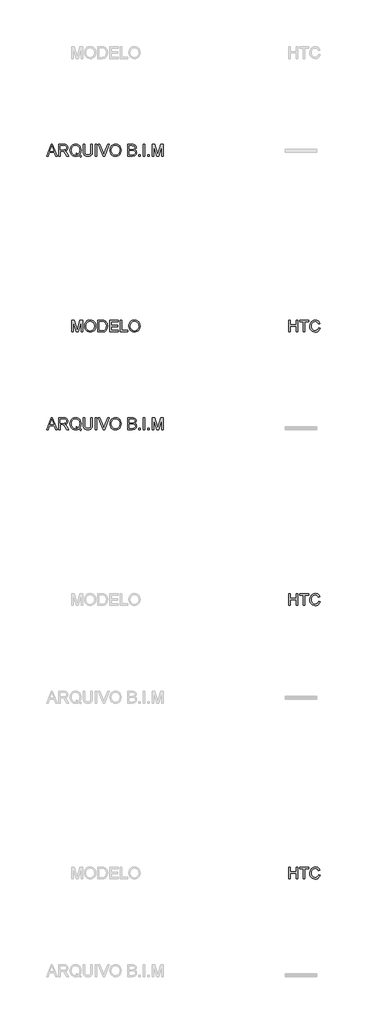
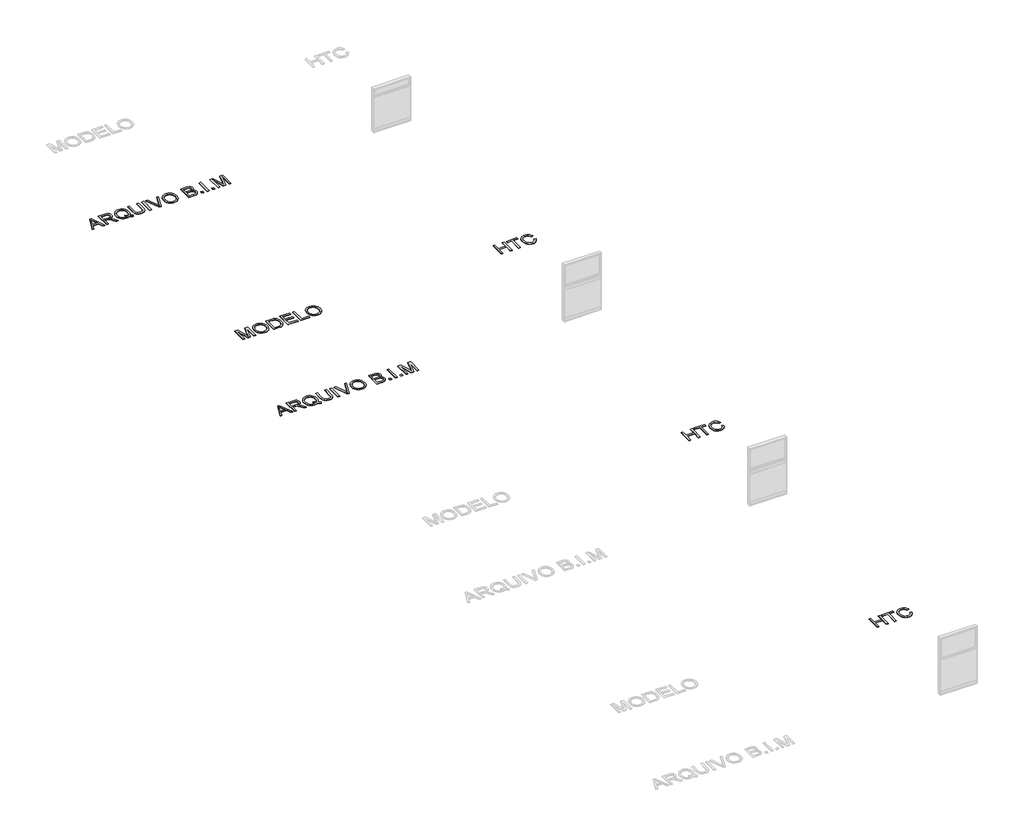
# One storey, part 2 of 8: 6 proxies.
"""IFC4 building model written with IfcOpenShell, lengths in millimetres."""

from ifc_helpers import new_model, si_unit, origin, origin_with_axes, place, context, project, spatial, polyline, outline, extrude, element, save

model = new_model("IFC4")

# Units and contexts
model_context = context("Model", 3, world=origin())
ifc_project = project(units=[si_unit("LENGTHUNIT", "METRE", prefix="MILLI")], contexts=[model_context])

# Site, building, storey
site = spatial("IfcSite", under=ifc_project)
building = spatial("IfcBuilding", under=site)
storey = spatial("IfcBuildingStorey", under=building, Name="Marelli - Linha HABITAT - Planta Baixa", Elevation=0.0)

# Proxies
placement = place(None, origin())
element("IfcBuildingElementProxy", 1, Name="300mm Arial", ObjectType="300mm Arial", at=placement, inside=storey, context=model_context, shape_type="SweptSolid", body=[
    extrude(outline(polyline([(29390.580402, -66280.5663201), (29510.8778144, -65979.1973896), (29542.9571244, -65979.1973896), (29663.2545368, -66280.5663201), (29623.449705, -66280.5663201), (29588.9423738, -66186.3885293), (29464.8189886, -66186.3885293), (29430.3852339, -66280.5663201), (29390.580402, -66280.5663201)]), holes=[polyline([(29478.6513517, -66148.717413), (29575.1835872, -66148.717413), (29548.0338959, -66074.6259792), (29526.9174694, -66016.8685059), (29508.1554877, -66068.1512561), (29478.6513517, -66148.717413)])]), origin_with_axes(), (0.0, 0.0, 1.0), 10.0),
    extrude(outline(polyline([(29703.5008271, -66280.5663201), (29703.5008271, -65979.1973896), (29833.3631714, -65979.1973896), (29868.2659757, -65981.2299376), (29893.6590304, -65987.3275817), (29912.2186771, -65998.5847708), (29926.6212572, -66016.0959537), (29935.8642923, -66037.8101885), (29938.945304, -66061.6765329), (29933.8409413, -66091.3646099), (29918.5278533, -66115.9759154), (29906.9280741, -66126.0052983), (29892.5461874, -66134.0205273), (29855.4360911, -66144.0085235), (29876.8468232, -66160.1217548), (29907.3810288, -66198.8965171), (29957.6337094, -66280.5663201), (29913.855752, -66280.5663201), (29874.6395313, -66218.0999573), (29846.3126176, -66176.750021), (29826.4102017, -66157.2154871), (29808.4943485, -66150.0417882), (29786.642158, -66148.717413), (29741.1719434, -66148.717413), (29741.1719434, -66280.5663201), (29703.5008271, -66280.5663201)]), holes=[polyline([(29741.1719434, -66111.0462967), (29825.4904967, -66111.0462967), (29849.706329, -66109.7127245), (29868.4959019, -66105.7120078), (29882.6409647, -66098.7774322), (29892.9232664, -66088.6422832), (29899.1864574, -66076.3826157), (29901.2741877, -66063.0744845), (29897.2918651, -66044.6987789), (29885.3448973, -66029.8915286), (29864.7894908, -66020.1242616), (29834.9818522, -66016.8685059), (29741.1719434, -66016.8685059), (29741.1719434, -66111.0462967)])]), origin_with_axes(), (0.0, 0.0, 1.0), 10.0),
    extrude(outline(polyline([(30231.2643374, -66244.4403081), (30255.5997314, -66263.036743), (30277.9853508, -66275.8574305), (30267.8318077, -66303.4485802), (30236.7641732, -66289.0460001), (30205.8069033, -66268.205485), (30170.9500843, -66281.0077785), (30132.5983863, -66285.2752096), (30094.0627473, -66280.3547879), (30059.2427164, -66265.5935229), (30030.0788713, -66241.9203165), (30008.5117893, -66210.2640708), (29995.185264, -66172.3630282), (29990.7430889, -66129.9554312), (29995.176067, -66087.511046), (30008.4750011, -66049.0581805), (30029.9593096, -66016.9512794), (30058.9484108, -65993.5447874), (30093.639683, -65979.2525719), (30132.2305043, -65974.4885001), (30171.1248282, -65979.3629365), (30205.9908443, -65993.9862458), (30234.9339603, -66017.3835407), (30256.0595839, -66048.5799339), (30268.9722419, -66085.9199564), (30273.2764612, -66127.7481393), (30270.6644991, -66162.5313819), (30262.8286126, -66193.5990164), (30249.7136194, -66220.9142546), (30231.2643374, -66244.4403081)]), holes=[polyline([(30142.9726585, -66194.3347804), (30174.6472983, -66206.3093393), (30200.215097, -66222.9559996), (30215.6983305, -66205.4816049), (30226.7577829, -66184.1076609), (30233.3934544, -66158.8341679), (30235.6053449, -66129.6611256), (30232.478348, -66096.5057608), (30223.0973571, -66067.8201623), (30207.6922985, -66044.3308969), (30186.4930986, -66026.7645316), (30160.934497, -66015.8108452), (30132.4512335, -66012.1596164), (30110.966925, -66014.0059242), (30091.3956028, -66019.5448474), (30073.7372671, -66028.7763863), (30057.9919177, -66041.7005406), (30045.0516685, -66058.2897193), (30035.8086334, -66078.5163313), (30030.2628123, -66102.3803764), (30028.4142053, -66129.8818548), (30030.2421189, -66156.6659634), (30035.7258599, -66180.1437324), (30044.8654282, -66200.3151621), (30057.6608239, -66217.1802523), (30073.2981079, -66230.4906827), (30090.9633415, -66239.9981331), (30110.6565245, -66245.7026032), (30132.3776571, -66247.6040933), (30153.2917485, -66245.6727128), (30172.918253, -66239.8785714), (30153.6228423, -66229.853787), (30133.2605739, -66223.1767288), (30142.9726585, -66194.3347804)])]), origin_with_axes(), (0.0, 0.0, 1.0), 10.0),
    extrude(outline(polyline([(30527.5564963, -65979.1973896), (30565.2276126, -65979.1973896), (30565.2276126, -66153.0584205), (30562.6708327, -66193.7737604), (30555.0004931, -66225.1265034), (30540.6714894, -66249.3147446), (30518.1387172, -66268.5365788), (30487.3469942, -66281.0905519), (30448.2411381, -66285.2752096), (30409.9906077, -66281.6331779), (30379.4104168, -66270.7070826), (30356.4913685, -66252.8740029), (30341.2242657, -66228.5110178), (30332.6434182, -66195.8338995), (30329.7831357, -66153.0584205), (30329.7831357, -65979.1973896), (30367.454252, -65979.1973896), (30367.454252, -66151.7340454), (30369.3120561, -66185.588386), (30374.8854683, -66209.1604248), (30384.9838291, -66225.4851883), (30400.4164788, -66237.597703), (30420.5396239, -66245.1024957), (30444.709471, -66247.6040933), (30483.0243808, -66242.6560805), (30497.3671801, -66236.4710644), (30508.500209, -66227.812042), (30516.8373347, -66215.6351479), (30522.7924245, -66198.8965171), (30527.5564963, -66151.7340454), (30527.5564963, -65979.1973896)])), origin_with_axes(), (0.0, 0.0, 1.0), 10.0),
    extrude(outline(polyline([(30635.8609557, -66280.5663201), (30635.8609557, -65979.1973896), (30673.532072, -65979.1973896), (30673.532072, -66280.5663201), (30635.8609557, -66280.5663201)])), origin_with_axes(), (0.0, 0.0, 1.0), 10.0),
    extrude(outline(polyline([(30837.9017474, -66280.5663201), (30717.972217, -65979.1973896), (30758.2920837, -65979.1973896), (30838.563935, -66196.3213432), (30854.8243192, -66245.2496485), (30870.8639742, -66196.3213432), (30951.3565547, -65979.1973896), (30991.6764214, -65979.1973896), (30876.8236625, -66280.5663201), (30837.9017474, -66280.5663201)])), origin_with_axes(), (0.0, 0.0, 1.0), 10.0),
    extrude(outline(polyline([(31012.5721187, -66133.8549804), (31015.0829134, -66098.5061192), (31022.6152972, -66067.213157), (31035.1692703, -66039.9760937), (31052.7448326, -66016.7949295), (31074.288922, -65998.2858666), (31098.7484761, -65985.0651074), (31126.1234951, -65977.1326519), (31156.4139789, -65974.4885001), (31195.9428992, -65979.454907), (31231.3883295, -65994.3541278), (31260.8188891, -66018.1376988), (31282.3031976, -66049.7571563), (31295.4365848, -66087.68579), (31299.8143806, -66130.3968896), (31295.2066586, -66173.6782064), (31281.3834926, -66212.140269), (31259.1082378, -66243.8149088), (31229.1442493, -66266.733957), (31194.0023217, -66280.6398965), (31156.1932497, -66285.2752096), (31116.057324, -66280.1524528), (31080.4095587, -66264.7841825), (31051.0525754, -66240.5591531), (31029.7889961, -66208.8661192), (31016.8763381, -66172.3998164), (31012.5721187, -66133.8549804)]), holes=[polyline([(31050.2432351, -66134.2228624), (31052.126331, -66159.1974513), (31057.7756189, -66181.3669401), (31067.1910987, -66200.7313286), (31080.3727705, -66217.2906169), (31096.3963306, -66230.5527628), (31114.3374757, -66240.0257242), (31134.1962056, -66245.709501), (31155.9725205, -66247.6040933), (31178.1213158, -66245.6911069), (31198.2145706, -66239.9521478), (31216.2522846, -66230.3872159), (31232.2344581, -66216.9963113), (31245.3195608, -66200.0875351), (31254.6660627, -66179.9689885), (31260.2739639, -66156.6406715), (31262.1432643, -66130.102584), (31258.9426909, -66096.7540812), (31249.3409708, -66067.9305269), (31233.5864244, -66044.358488), (31211.9273719, -66026.7645316), (31185.7985532, -66015.8108452), (31156.6347081, -66012.1596164), (31135.6148506, -66013.9185522), (31116.1125063, -66019.1953595), (31098.1276753, -66027.9900385), (31081.6603574, -66040.302589), (31067.9153664, -66056.7262208), (31058.0975157, -66077.8541437), (31052.2068052, -66103.6863575), (31050.2432351, -66134.2228624)])]), origin_with_axes(), (0.0, 0.0, 1.0), 10.0),
    extrude(outline(polyline([(31469.334404, -66280.5663201), (31469.334404, -65979.1973896), (31584.3343157, -65979.1973896), (31615.9629702, -65981.4138786), (31640.6570491, -65988.0633457), (31659.5845778, -65999.3113377), (31673.9135815, -66015.3234015), (31682.9358874, -66034.1589597), (31685.9433227, -66053.8774346), (31683.414134, -66072.0232141), (31675.8265679, -66089.0837416), (31663.125442, -66104.0105535), (31645.2555741, -66115.7551862), (31666.6019268, -66126.9020107), (31682.3748674, -66143.8613707), (31692.1145432, -66165.5112261), (31695.3611018, -66190.7295368), (31693.1446128, -66211.7447958), (31686.4951457, -66231.2333445), (31676.5715289, -66247.8064284), (31664.5325906, -66260.0752929), (31649.7897196, -66268.9596431), (31631.7543048, -66275.3791839), (31583.4513989, -66280.5663201), (31469.334404, -66280.5663201)]), holes=[polyline([(31507.0055203, -66101.6285176), (31575.7994534, -66101.6285176), (31615.9721672, -66098.3911561), (31630.0344565, -66092.8085468), (31640.1420143, -66084.4484284), (31646.2396584, -66073.4395597), (31648.2722064, -66059.9106994), (31646.3776141, -66046.7773121), (31640.6938373, -66035.3361821), (31631.4783933, -66026.4058467), (31618.9887996, -66020.8048433), (31570.575529, -66016.8685059), (31507.0055203, -66016.8685059), (31507.0055203, -66101.6285176)]), polyline([(31507.0055203, -66242.8952038), (31584.2607393, -66242.8952038), (31612.2197709, -66241.4236758), (31635.8745832, -66233.2199073), (31651.5463562, -66216.4812765), (31656.1540782, -66204.6538704), (31657.6899855, -66191.0974188), (31655.8873637, -66175.3520694), (31650.4794984, -66161.814012), (31641.0341282, -66151.2282076), (31627.1189917, -66144.3396173), (31607.4097138, -66140.5596298), (31580.5819193, -66139.2996339), (31507.0055203, -66139.2996339), (31507.0055203, -66242.8952038)])]), origin_with_axes(), (0.0, 0.0, 1.0), 10.0),
    extrude(outline(polyline([(31751.8677763, -66280.5663201), (31751.8677763, -66242.8952038), (31789.5388926, -66242.8952038), (31789.5388926, -66280.5663201), (31751.8677763, -66280.5663201)])), origin_with_axes(), (0.0, 0.0, 1.0), 10.0),
    extrude(outline(polyline([(31869.5900147, -66280.5663201), (31869.5900147, -65979.1973896), (31907.261131, -65979.1973896), (31907.261131, -66280.5663201), (31869.5900147, -66280.5663201)])), origin_with_axes(), (0.0, 0.0, 1.0), 10.0),
    extrude(outline(polyline([(31987.3122532, -66280.5663201), (31987.3122532, -66242.8952038), (32024.9833695, -66242.8952038), (32024.9833695, -66280.5663201), (31987.3122532, -66280.5663201)])), origin_with_axes(), (0.0, 0.0, 1.0), 10.0),
    extrude(outline(polyline([(32100.3256021, -66280.5663201), (32100.3256021, -65979.1973896), (32165.1464096, -65979.1973896), (32226.803432, -66191.6124536), (32239.2378435, -66235.9790223), (32252.7023245, -66187.9336337), (32313.3292773, -65979.1973896), (32378.1500848, -65979.1973896), (32378.1500848, -66280.5663201), (32340.4789685, -66280.5663201), (32340.4789685, -66016.8685059), (32264.7688539, -66280.5663201), (32213.706833, -66280.5663201), (32137.9967184, -66016.8685059), (32137.9967184, -66280.5663201), (32100.3256021, -66280.5663201)])), origin_with_axes(), (0.0, 0.0, 1.0), 10.0),
])
element("IfcBuildingElementProxy", 2, Name="300mm Arial", ObjectType="300mm Arial", at=placement, inside=storey, context=model_context, shape_type="SweptSolid", body=[
    extrude(outline(polyline([(29390.580402, -73280.5663201), (29510.8778144, -72979.1973896), (29542.9571244, -72979.1973896), (29663.2545368, -73280.5663201), (29623.449705, -73280.5663201), (29588.9423738, -73186.3885293), (29464.8189886, -73186.3885293), (29430.3852339, -73280.5663201), (29390.580402, -73280.5663201)]), holes=[polyline([(29478.6513517, -73148.717413), (29575.1835872, -73148.717413), (29548.0338959, -73074.6259792), (29526.9174694, -73016.8685059), (29508.1554877, -73068.1512561), (29478.6513517, -73148.717413)])]), origin_with_axes(), (0.0, 0.0, 1.0), 10.0),
    extrude(outline(polyline([(29703.5008271, -73280.5663201), (29703.5008271, -72979.1973896), (29833.3631714, -72979.1973896), (29868.2659757, -72981.2299376), (29893.6590304, -72987.3275817), (29912.2186771, -72998.5847708), (29926.6212572, -73016.0959537), (29935.8642923, -73037.8101885), (29938.945304, -73061.6765329), (29933.8409413, -73091.3646099), (29918.5278533, -73115.9759154), (29906.9280741, -73126.0052983), (29892.5461874, -73134.0205273), (29855.4360911, -73144.0085235), (29876.8468232, -73160.1217548), (29907.3810288, -73198.8965171), (29957.6337094, -73280.5663201), (29913.855752, -73280.5663201), (29874.6395313, -73218.0999573), (29846.3126176, -73176.750021), (29826.4102017, -73157.2154871), (29808.4943485, -73150.0417882), (29786.642158, -73148.717413), (29741.1719434, -73148.717413), (29741.1719434, -73280.5663201), (29703.5008271, -73280.5663201)]), holes=[polyline([(29741.1719434, -73111.0462967), (29825.4904967, -73111.0462967), (29849.706329, -73109.7127245), (29868.4959019, -73105.7120078), (29882.6409647, -73098.7774322), (29892.9232664, -73088.6422832), (29899.1864574, -73076.3826157), (29901.2741877, -73063.0744845), (29897.2918651, -73044.6987789), (29885.3448973, -73029.8915286), (29864.7894908, -73020.1242616), (29834.9818522, -73016.8685059), (29741.1719434, -73016.8685059), (29741.1719434, -73111.0462967)])]), origin_with_axes(), (0.0, 0.0, 1.0), 10.0),
    extrude(outline(polyline([(30231.2643374, -73244.4403081), (30255.5997314, -73263.036743), (30277.9853508, -73275.8574305), (30267.8318077, -73303.4485802), (30236.7641732, -73289.0460001), (30205.8069033, -73268.205485), (30170.9500843, -73281.0077785), (30132.5983863, -73285.2752096), (30094.0627473, -73280.3547879), (30059.2427164, -73265.5935229), (30030.0788713, -73241.9203165), (30008.5117893, -73210.2640708), (29995.185264, -73172.3630282), (29990.7430889, -73129.9554312), (29995.176067, -73087.511046), (30008.4750011, -73049.0581805), (30029.9593096, -73016.9512794), (30058.9484108, -72993.5447874), (30093.639683, -72979.2525719), (30132.2305043, -72974.4885001), (30171.1248282, -72979.3629365), (30205.9908443, -72993.9862458), (30234.9339603, -73017.3835407), (30256.0595839, -73048.5799339), (30268.9722419, -73085.9199564), (30273.2764612, -73127.7481393), (30270.6644991, -73162.5313819), (30262.8286126, -73193.5990164), (30249.7136194, -73220.9142546), (30231.2643374, -73244.4403081)]), holes=[polyline([(30142.9726585, -73194.3347804), (30174.6472983, -73206.3093393), (30200.215097, -73222.9559996), (30215.6983305, -73205.4816049), (30226.7577829, -73184.1076609), (30233.3934544, -73158.8341679), (30235.6053449, -73129.6611256), (30232.478348, -73096.5057608), (30223.0973571, -73067.8201623), (30207.6922985, -73044.3308969), (30186.4930986, -73026.7645316), (30160.934497, -73015.8108452), (30132.4512335, -73012.1596164), (30110.966925, -73014.0059242), (30091.3956028, -73019.5448474), (30073.7372671, -73028.7763863), (30057.9919177, -73041.7005406), (30045.0516685, -73058.2897193), (30035.8086334, -73078.5163313), (30030.2628123, -73102.3803764), (30028.4142053, -73129.8818548), (30030.2421189, -73156.6659634), (30035.7258599, -73180.1437324), (30044.8654282, -73200.3151621), (30057.6608239, -73217.1802523), (30073.2981079, -73230.4906827), (30090.9633415, -73239.9981331), (30110.6565245, -73245.7026032), (30132.3776571, -73247.6040933), (30153.2917485, -73245.6727128), (30172.918253, -73239.8785714), (30153.6228423, -73229.853787), (30133.2605739, -73223.1767288), (30142.9726585, -73194.3347804)])]), origin_with_axes(), (0.0, 0.0, 1.0), 10.0),
    extrude(outline(polyline([(30527.5564963, -72979.1973896), (30565.2276126, -72979.1973896), (30565.2276126, -73153.0584205), (30562.6708327, -73193.7737604), (30555.0004931, -73225.1265034), (30540.6714894, -73249.3147446), (30518.1387172, -73268.5365788), (30487.3469942, -73281.0905519), (30448.2411381, -73285.2752096), (30409.9906077, -73281.6331779), (30379.4104168, -73270.7070826), (30356.4913685, -73252.8740029), (30341.2242657, -73228.5110178), (30332.6434182, -73195.8338995), (30329.7831357, -73153.0584205), (30329.7831357, -72979.1973896), (30367.454252, -72979.1973896), (30367.454252, -73151.7340454), (30369.3120561, -73185.588386), (30374.8854683, -73209.1604248), (30384.9838291, -73225.4851883), (30400.4164788, -73237.597703), (30420.5396239, -73245.1024957), (30444.709471, -73247.6040933), (30483.0243808, -73242.6560805), (30497.3671801, -73236.4710644), (30508.500209, -73227.812042), (30516.8373347, -73215.6351479), (30522.7924245, -73198.8965171), (30527.5564963, -73151.7340454), (30527.5564963, -72979.1973896)])), origin_with_axes(), (0.0, 0.0, 1.0), 10.0),
    extrude(outline(polyline([(30635.8609557, -73280.5663201), (30635.8609557, -72979.1973896), (30673.532072, -72979.1973896), (30673.532072, -73280.5663201), (30635.8609557, -73280.5663201)])), origin_with_axes(), (0.0, 0.0, 1.0), 10.0),
    extrude(outline(polyline([(30837.9017474, -73280.5663201), (30717.972217, -72979.1973896), (30758.2920837, -72979.1973896), (30838.563935, -73196.3213432), (30854.8243192, -73245.2496485), (30870.8639742, -73196.3213432), (30951.3565547, -72979.1973896), (30991.6764214, -72979.1973896), (30876.8236625, -73280.5663201), (30837.9017474, -73280.5663201)])), origin_with_axes(), (0.0, 0.0, 1.0), 10.0),
    extrude(outline(polyline([(31012.5721187, -73133.8549804), (31015.0829134, -73098.5061192), (31022.6152972, -73067.213157), (31035.1692703, -73039.9760937), (31052.7448326, -73016.7949295), (31074.288922, -72998.2858666), (31098.7484761, -72985.0651074), (31126.1234951, -72977.1326519), (31156.4139789, -72974.4885001), (31195.9428992, -72979.454907), (31231.3883295, -72994.3541278), (31260.8188891, -73018.1376988), (31282.3031976, -73049.7571563), (31295.4365848, -73087.68579), (31299.8143806, -73130.3968896), (31295.2066586, -73173.6782064), (31281.3834926, -73212.140269), (31259.1082378, -73243.8149088), (31229.1442493, -73266.733957), (31194.0023217, -73280.6398965), (31156.1932497, -73285.2752096), (31116.057324, -73280.1524528), (31080.4095587, -73264.7841825), (31051.0525754, -73240.5591531), (31029.7889961, -73208.8661192), (31016.8763381, -73172.3998164), (31012.5721187, -73133.8549804)]), holes=[polyline([(31050.2432351, -73134.2228624), (31052.126331, -73159.1974513), (31057.7756189, -73181.3669401), (31067.1910987, -73200.7313286), (31080.3727705, -73217.2906169), (31096.3963306, -73230.5527628), (31114.3374757, -73240.0257242), (31134.1962056, -73245.709501), (31155.9725205, -73247.6040933), (31178.1213158, -73245.6911069), (31198.2145706, -73239.9521478), (31216.2522846, -73230.3872159), (31232.2344581, -73216.9963113), (31245.3195608, -73200.0875351), (31254.6660627, -73179.9689885), (31260.2739639, -73156.6406715), (31262.1432643, -73130.102584), (31258.9426909, -73096.7540812), (31249.3409708, -73067.9305269), (31233.5864244, -73044.358488), (31211.9273719, -73026.7645316), (31185.7985532, -73015.8108452), (31156.6347081, -73012.1596164), (31135.6148506, -73013.9185522), (31116.1125063, -73019.1953595), (31098.1276753, -73027.9900385), (31081.6603574, -73040.302589), (31067.9153664, -73056.7262208), (31058.0975157, -73077.8541437), (31052.2068052, -73103.6863575), (31050.2432351, -73134.2228624)])]), origin_with_axes(), (0.0, 0.0, 1.0), 10.0),
    extrude(outline(polyline([(31469.334404, -73280.5663201), (31469.334404, -72979.1973896), (31584.3343157, -72979.1973896), (31615.9629702, -72981.4138786), (31640.6570491, -72988.0633457), (31659.5845778, -72999.3113377), (31673.9135815, -73015.3234015), (31682.9358874, -73034.1589597), (31685.9433227, -73053.8774346), (31683.414134, -73072.0232141), (31675.8265679, -73089.0837416), (31663.125442, -73104.0105535), (31645.2555741, -73115.7551862), (31666.6019268, -73126.9020107), (31682.3748674, -73143.8613707), (31692.1145432, -73165.5112261), (31695.3611018, -73190.7295368), (31693.1446128, -73211.7447958), (31686.4951457, -73231.2333445), (31676.5715289, -73247.8064284), (31664.5325906, -73260.0752929), (31649.7897196, -73268.9596431), (31631.7543048, -73275.3791839), (31583.4513989, -73280.5663201), (31469.334404, -73280.5663201)]), holes=[polyline([(31507.0055203, -73101.6285176), (31575.7994534, -73101.6285176), (31615.9721672, -73098.3911561), (31630.0344565, -73092.8085468), (31640.1420143, -73084.4484284), (31646.2396584, -73073.4395597), (31648.2722064, -73059.9106994), (31646.3776141, -73046.7773121), (31640.6938373, -73035.3361821), (31631.4783933, -73026.4058467), (31618.9887996, -73020.8048433), (31570.575529, -73016.8685059), (31507.0055203, -73016.8685059), (31507.0055203, -73101.6285176)]), polyline([(31507.0055203, -73242.8952038), (31584.2607393, -73242.8952038), (31612.2197709, -73241.4236758), (31635.8745832, -73233.2199073), (31651.5463562, -73216.4812765), (31656.1540782, -73204.6538704), (31657.6899855, -73191.0974188), (31655.8873637, -73175.3520694), (31650.4794984, -73161.814012), (31641.0341282, -73151.2282076), (31627.1189917, -73144.3396173), (31607.4097138, -73140.5596298), (31580.5819193, -73139.2996339), (31507.0055203, -73139.2996339), (31507.0055203, -73242.8952038)])]), origin_with_axes(), (0.0, 0.0, 1.0), 10.0),
    extrude(outline(polyline([(31751.8677763, -73280.5663201), (31751.8677763, -73242.8952038), (31789.5388926, -73242.8952038), (31789.5388926, -73280.5663201), (31751.8677763, -73280.5663201)])), origin_with_axes(), (0.0, 0.0, 1.0), 10.0),
    extrude(outline(polyline([(31869.5900147, -73280.5663201), (31869.5900147, -72979.1973896), (31907.261131, -72979.1973896), (31907.261131, -73280.5663201), (31869.5900147, -73280.5663201)])), origin_with_axes(), (0.0, 0.0, 1.0), 10.0),
    extrude(outline(polyline([(31987.3122532, -73280.5663201), (31987.3122532, -73242.8952038), (32024.9833695, -73242.8952038), (32024.9833695, -73280.5663201), (31987.3122532, -73280.5663201)])), origin_with_axes(), (0.0, 0.0, 1.0), 10.0),
    extrude(outline(polyline([(32100.3256021, -73280.5663201), (32100.3256021, -72979.1973896), (32165.1464096, -72979.1973896), (32226.803432, -73191.6124536), (32239.2378435, -73235.9790223), (32252.7023245, -73187.9336337), (32313.3292773, -72979.1973896), (32378.1500848, -72979.1973896), (32378.1500848, -73280.5663201), (32340.4789685, -73280.5663201), (32340.4789685, -73016.8685059), (32264.7688539, -73280.5663201), (32213.706833, -73280.5663201), (32137.9967184, -73016.8685059), (32137.9967184, -73280.5663201), (32100.3256021, -73280.5663201)])), origin_with_axes(), (0.0, 0.0, 1.0), 10.0),
])
element("IfcBuildingElementProxy", 3, Name="300mm Arial", ObjectType="300mm Arial", at=placement, inside=storey, context=model_context, shape_type="SweptSolid", body=[
    extrude(outline(polyline([(35588.7720603, -70780.5663201), (35588.7720603, -70479.1973896), (35626.4431766, -70479.1973896), (35626.4431766, -70601.6285176), (35786.5454209, -70601.6285176), (35786.5454209, -70479.1973896), (35824.2165372, -70479.1973896), (35824.2165372, -70780.5663201), (35786.5454209, -70780.5663201), (35786.5454209, -70639.2996339), (35626.4431766, -70639.2996339), (35626.4431766, -70780.5663201), (35588.7720603, -70780.5663201)])), origin_with_axes(), (0.0, 0.0, 1.0), 10.0),
    extrude(outline(polyline([(35965.4832234, -70780.5663201), (35965.4832234, -70516.8685059), (35866.5965431, -70516.8685059), (35866.5965431, -70479.1973896), (36102.04102, -70479.1973896), (36102.04102, -70516.8685059), (36003.1543397, -70516.8685059), (36003.1543397, -70780.5663201), (35965.4832234, -70780.5663201)])), origin_with_axes(), (0.0, 0.0, 1.0), 10.0),
    extrude(outline(polyline([(36356.321055, -70673.4390831), (36393.9921713, -70683.1511677), (36386.5379624, -70706.5783531), (36376.6097471, -70727.0486868), (36364.2075253, -70744.5621691), (36349.3312971, -70759.1187997), (36332.3167549, -70770.5622291), (36313.4995908, -70778.7361071), (36292.879805, -70783.640434), (36270.4573974, -70785.2752096), (36226.7622134, -70780.3271968), (36192.0617442, -70765.4831583), (36165.4638759, -70741.2581289), (36146.0764948, -70708.1671434), (36134.2398916, -70669.2636224), (36130.2943572, -70627.6009865), (36134.7549264, -70583.6574821), (36148.136634, -70545.7104543), (36169.7405041, -70514.9647166), (36198.8675611, -70492.6250824), (36233.4116805, -70479.0226457), (36271.2667378, -70474.4885001), (36312.5706888, -70480.3562179), (36330.539425, -70487.6908652), (36346.719335, -70497.9593714), (36360.8437043, -70510.8904235), (36372.6458186, -70526.2127086), (36389.2832818, -70564.0309777), (36351.6121655, -70573.0072984), (36338.5523547, -70545.5357104), (36320.7100779, -70526.6909552), (36297.864606, -70515.7924511), (36269.7952098, -70512.1596164), (36237.4399883, -70516.1879242), (36210.8605141, -70528.2728478), (36190.6913838, -70547.1451941), (36177.5671936, -70571.5357704), (36170.3659035, -70599.1085259), (36167.9654735, -70627.5274101), (36170.8073619, -70662.3290468), (36179.3330272, -70692.421794), (36193.864366, -70716.6560205), (36214.7232751, -70733.8820949), (36239.7300537, -70744.1735937), (36266.705001, -70747.6040933), (36298.1497146, -70742.931992), (36324.3521097, -70728.9156879), (36344.134964, -70705.702334), (36356.321055, -70673.4390831)])), origin_with_axes(), (0.0, 0.0, 1.0), 10.0),
])
element("IfcBuildingElementProxy", 4, Name="300mm Arial", ObjectType="300mm Arial", at=placement, inside=storey, context=model_context, shape_type="SweptSolid", body=[
    extrude(outline(polyline([(30033.1230948, -70780.5663201), (30033.1230948, -70479.1973896), (30097.9439023, -70479.1973896), (30159.6009247, -70691.6124536), (30172.0353362, -70735.9790223), (30185.4998172, -70687.9336337), (30246.12677, -70479.1973896), (30310.9475775, -70479.1973896), (30310.9475775, -70780.5663201), (30273.2764612, -70780.5663201), (30273.2764612, -70516.8685059), (30197.5663466, -70780.5663201), (30146.5043257, -70780.5663201), (30070.7942111, -70516.8685059), (30070.7942111, -70780.5663201), (30033.1230948, -70780.5663201)])), origin_with_axes(), (0.0, 0.0, 1.0), 10.0),
    extrude(outline(polyline([(30362.7453625, -70633.8549804), (30365.2561571, -70598.5061192), (30372.7885409, -70567.213157), (30385.342514, -70539.9760937), (30402.9180763, -70516.7949295), (30424.4621657, -70498.2858666), (30448.9217198, -70485.0651074), (30476.2967388, -70477.1326519), (30506.5872226, -70474.4885001), (30546.116143, -70479.454907), (30581.5615732, -70494.3541278), (30610.9921328, -70518.1376988), (30632.4764413, -70549.7571563), (30645.6098286, -70587.68579), (30649.9876243, -70630.3968896), (30645.3799023, -70673.6782064), (30631.5567363, -70712.140269), (30609.2814815, -70743.8149088), (30579.317493, -70766.733957), (30544.1755654, -70780.6398965), (30506.3664934, -70785.2752096), (30466.2305677, -70780.1524528), (30430.5828024, -70764.7841825), (30401.2258192, -70740.5591531), (30379.9622398, -70708.8661192), (30367.0495818, -70672.3998164), (30362.7453625, -70633.8549804)]), holes=[polyline([(30400.4164788, -70634.2228624), (30402.2995747, -70659.1974513), (30407.9488626, -70681.3669401), (30417.3643424, -70700.7313286), (30430.5460142, -70717.2906169), (30446.5695743, -70730.5527628), (30464.5107194, -70740.0257242), (30484.3694493, -70745.709501), (30506.1457642, -70747.6040933), (30528.2945596, -70745.6911069), (30548.3878143, -70739.9521478), (30566.4255284, -70730.3872159), (30582.4077018, -70716.9963113), (30595.4928045, -70700.0875351), (30604.8393064, -70679.9689885), (30610.4472076, -70656.6406715), (30612.316508, -70630.102584), (30609.1159346, -70596.7540812), (30599.5142146, -70567.9305269), (30583.7596681, -70544.358488), (30562.1006157, -70526.7645316), (30535.9717969, -70515.8108452), (30506.8079518, -70512.1596164), (30485.7880943, -70513.9185522), (30466.28575, -70519.1953595), (30448.300919, -70527.9900385), (30431.8336012, -70540.302589), (30418.0886101, -70556.7262208), (30408.2707594, -70577.8541437), (30402.3800489, -70603.6863575), (30400.4164788, -70634.2228624)])]), origin_with_axes(), (0.0, 0.0, 1.0), 10.0),
    extrude(outline(polyline([(30701.7854092, -70780.5663201), (30701.7854092, -70479.1973896), (30805.7488611, -70479.1973896), (30859.5332088, -70483.5383972), (30883.555903, -70491.9077126), (30903.826201, -70505.0962821), (30924.666716, -70528.0521186), (30939.5107545, -70556.5997614), (30948.3951047, -70590.1873876), (30951.3565547, -70628.2631741), (30949.3515979, -70660.6091985), (30943.3367273, -70689.0740679), (30934.1764656, -70713.3082943), (30922.7353355, -70732.9623899), (30909.5651601, -70748.477813), (30895.2177623, -70760.2960221), (30878.745846, -70769.0608107), (30859.202115, -70775.4159721), (30810.7520562, -70780.5663201), (30701.7854092, -70780.5663201)]), holes=[polyline([(30739.4565255, -70742.8952038), (30806.1167431, -70742.8952038), (30833.6894986, -70741.5340404), (30854.60359, -70737.4505502), (30870.3857276, -70730.8838566), (30882.5626217, -70722.0730828), (30895.6500236, -70705.7667134), (30905.48167, -70684.6594839), (30911.6344963, -70658.6594239), (30913.6854384, -70627.6745629), (30909.6663276, -70586.6189322), (30897.6089953, -70556.3054558), (30879.7943096, -70535.4833349), (30858.5031392, -70522.9017706), (30836.8348897, -70518.3768221), (30805.0866735, -70516.8685059), (30739.4565255, -70516.8685059), (30739.4565255, -70742.8952038)])]), origin_with_axes(), (0.0, 0.0, 1.0), 10.0),
    extrude(outline(polyline([(31003.1543397, -70780.5663201), (31003.1543397, -70479.1973896), (31219.7632584, -70479.1973896), (31219.7632584, -70516.8685059), (31040.825456, -70516.8685059), (31040.825456, -70606.3374072), (31210.3454794, -70606.3374072), (31210.3454794, -70644.0085235), (31040.825456, -70644.0085235), (31040.825456, -70742.8952038), (31224.472148, -70742.8952038), (31224.472148, -70780.5663201), (31003.1543397, -70780.5663201)])), origin_with_axes(), (0.0, 0.0, 1.0), 10.0),
    extrude(outline(polyline([(31280.9788224, -70780.5663201), (31280.9788224, -70479.1973896), (31318.6499387, -70479.1973896), (31318.6499387, -70742.8952038), (31469.334404, -70742.8952038), (31469.334404, -70780.5663201), (31280.9788224, -70780.5663201)])), origin_with_axes(), (0.0, 0.0, 1.0), 10.0),
    extrude(outline(polyline([(31497.5877412, -70633.8549804), (31500.0985358, -70598.5061192), (31507.6309197, -70567.213157), (31520.1848927, -70539.9760937), (31537.7604551, -70516.7949295), (31559.3045444, -70498.2858666), (31583.7640986, -70485.0651074), (31611.1391175, -70477.1326519), (31641.4296013, -70474.4885001), (31680.9585217, -70479.454907), (31716.4039519, -70494.3541278), (31745.8345115, -70518.1376988), (31767.3188201, -70549.7571563), (31780.4522073, -70587.68579), (31784.830003, -70630.3968896), (31780.222281, -70673.6782064), (31766.3991151, -70712.140269), (31744.1238603, -70743.8149088), (31714.1598717, -70766.733957), (31679.0179442, -70780.6398965), (31641.2088721, -70785.2752096), (31601.0729464, -70780.1524528), (31565.4251811, -70764.7841825), (31536.0681979, -70740.5591531), (31514.8046186, -70708.8661192), (31501.8919605, -70672.3998164), (31497.5877412, -70633.8549804)]), holes=[polyline([(31535.2588575, -70634.2228624), (31537.1419535, -70659.1974513), (31542.7912413, -70681.3669401), (31552.2067212, -70700.7313286), (31565.3883929, -70717.2906169), (31581.4119531, -70730.5527628), (31599.3530981, -70740.0257242), (31619.2118281, -70745.709501), (31640.9881429, -70747.6040933), (31663.1369383, -70745.6911069), (31683.230193, -70739.9521478), (31701.2679071, -70730.3872159), (31717.2500805, -70716.9963113), (31730.3351832, -70700.0875351), (31739.6816852, -70679.9689885), (31745.2895863, -70656.6406715), (31747.1588867, -70630.102584), (31743.9583134, -70596.7540812), (31734.3565933, -70567.9305269), (31718.6020468, -70544.358488), (31696.9429944, -70526.7645316), (31670.8141757, -70515.8108452), (31641.6503305, -70512.1596164), (31620.630473, -70513.9185522), (31601.1281287, -70519.1953595), (31583.1432977, -70527.9900385), (31566.6759799, -70540.302589), (31552.9309888, -70556.7262208), (31543.1131381, -70577.8541437), (31537.2224276, -70603.6863575), (31535.2588575, -70634.2228624)])]), origin_with_axes(), (0.0, 0.0, 1.0), 10.0),
])
element("IfcBuildingElementProxy", 5, Name="300mm Arial", ObjectType="300mm Arial", at=placement, inside=storey, context=model_context, shape_type="SweptSolid", body=[
    extrude(outline(polyline([(35588.7720603, -77780.5663201), (35588.7720603, -77479.1973896), (35626.4431766, -77479.1973896), (35626.4431766, -77601.6285176), (35786.5454209, -77601.6285176), (35786.5454209, -77479.1973896), (35824.2165372, -77479.1973896), (35824.2165372, -77780.5663201), (35786.5454209, -77780.5663201), (35786.5454209, -77639.2996339), (35626.4431766, -77639.2996339), (35626.4431766, -77780.5663201), (35588.7720603, -77780.5663201)])), origin_with_axes(), (0.0, 0.0, 1.0), 10.0),
    extrude(outline(polyline([(35965.4832234, -77780.5663201), (35965.4832234, -77516.8685059), (35866.5965431, -77516.8685059), (35866.5965431, -77479.1973896), (36102.04102, -77479.1973896), (36102.04102, -77516.8685059), (36003.1543397, -77516.8685059), (36003.1543397, -77780.5663201), (35965.4832234, -77780.5663201)])), origin_with_axes(), (0.0, 0.0, 1.0), 10.0),
    extrude(outline(polyline([(36356.321055, -77673.4390831), (36393.9921713, -77683.1511677), (36386.5379624, -77706.5783531), (36376.6097471, -77727.0486868), (36364.2075253, -77744.5621691), (36349.3312971, -77759.1187997), (36332.3167549, -77770.5622291), (36313.4995908, -77778.7361071), (36292.879805, -77783.640434), (36270.4573974, -77785.2752096), (36226.7622134, -77780.3271968), (36192.0617442, -77765.4831583), (36165.4638759, -77741.2581289), (36146.0764948, -77708.1671434), (36134.2398916, -77669.2636224), (36130.2943572, -77627.6009865), (36134.7549264, -77583.6574821), (36148.136634, -77545.7104543), (36169.7405041, -77514.9647166), (36198.8675611, -77492.6250824), (36233.4116805, -77479.0226457), (36271.2667378, -77474.4885001), (36312.5706888, -77480.3562179), (36330.539425, -77487.6908652), (36346.719335, -77497.9593714), (36360.8437043, -77510.8904235), (36372.6458186, -77526.2127086), (36389.2832818, -77564.0309777), (36351.6121655, -77573.0072984), (36338.5523547, -77545.5357104), (36320.7100779, -77526.6909552), (36297.864606, -77515.7924511), (36269.7952098, -77512.1596164), (36237.4399883, -77516.1879242), (36210.8605141, -77528.2728478), (36190.6913838, -77547.1451941), (36177.5671936, -77571.5357704), (36170.3659035, -77599.1085259), (36167.9654735, -77627.5274101), (36170.8073619, -77662.3290468), (36179.3330272, -77692.421794), (36193.864366, -77716.6560205), (36214.7232751, -77733.8820949), (36239.7300537, -77744.1735937), (36266.705001, -77747.6040933), (36298.1497146, -77742.931992), (36324.3521097, -77728.9156879), (36344.134964, -77705.702334), (36356.321055, -77673.4390831)])), origin_with_axes(), (0.0, 0.0, 1.0), 10.0),
])
element("IfcBuildingElementProxy", 6, Name="300mm Arial", ObjectType="300mm Arial", at=placement, inside=storey, context=model_context, shape_type="SweptSolid", body=[
    extrude(outline(polyline([(35588.7720603, -84780.5663201), (35588.7720603, -84479.1973896), (35626.4431766, -84479.1973896), (35626.4431766, -84601.6285176), (35786.5454209, -84601.6285176), (35786.5454209, -84479.1973896), (35824.2165372, -84479.1973896), (35824.2165372, -84780.5663201), (35786.5454209, -84780.5663201), (35786.5454209, -84639.2996339), (35626.4431766, -84639.2996339), (35626.4431766, -84780.5663201), (35588.7720603, -84780.5663201)])), origin_with_axes(), (0.0, 0.0, 1.0), 10.0),
    extrude(outline(polyline([(35965.4832234, -84780.5663201), (35965.4832234, -84516.8685059), (35866.5965431, -84516.8685059), (35866.5965431, -84479.1973896), (36102.04102, -84479.1973896), (36102.04102, -84516.8685059), (36003.1543397, -84516.8685059), (36003.1543397, -84780.5663201), (35965.4832234, -84780.5663201)])), origin_with_axes(), (0.0, 0.0, 1.0), 10.0),
    extrude(outline(polyline([(36356.321055, -84673.4390831), (36393.9921713, -84683.1511677), (36386.5379624, -84706.5783531), (36376.6097471, -84727.0486868), (36364.2075253, -84744.5621691), (36349.3312971, -84759.1187997), (36332.3167549, -84770.5622291), (36313.4995908, -84778.7361071), (36292.879805, -84783.640434), (36270.4573974, -84785.2752096), (36226.7622134, -84780.3271968), (36192.0617442, -84765.4831583), (36165.4638759, -84741.2581289), (36146.0764948, -84708.1671434), (36134.2398916, -84669.2636224), (36130.2943572, -84627.6009865), (36134.7549264, -84583.6574821), (36148.136634, -84545.7104543), (36169.7405041, -84514.9647166), (36198.8675611, -84492.6250824), (36233.4116805, -84479.0226457), (36271.2667378, -84474.4885001), (36312.5706888, -84480.3562179), (36330.539425, -84487.6908652), (36346.719335, -84497.9593714), (36360.8437043, -84510.8904235), (36372.6458186, -84526.2127086), (36389.2832818, -84564.0309777), (36351.6121655, -84573.0072984), (36338.5523547, -84545.5357104), (36320.7100779, -84526.6909552), (36297.864606, -84515.7924511), (36269.7952098, -84512.1596164), (36237.4399883, -84516.1879242), (36210.8605141, -84528.2728478), (36190.6913838, -84547.1451941), (36177.5671936, -84571.5357704), (36170.3659035, -84599.1085259), (36167.9654735, -84627.5274101), (36170.8073619, -84662.3290468), (36179.3330272, -84692.421794), (36193.864366, -84716.6560205), (36214.7232751, -84733.8820949), (36239.7300537, -84744.1735937), (36266.705001, -84747.6040933), (36298.1497146, -84742.931992), (36324.3521097, -84728.9156879), (36344.134964, -84705.702334), (36356.321055, -84673.4390831)])), origin_with_axes(), (0.0, 0.0, 1.0), 10.0),
])

save(model, "model.ifc")
